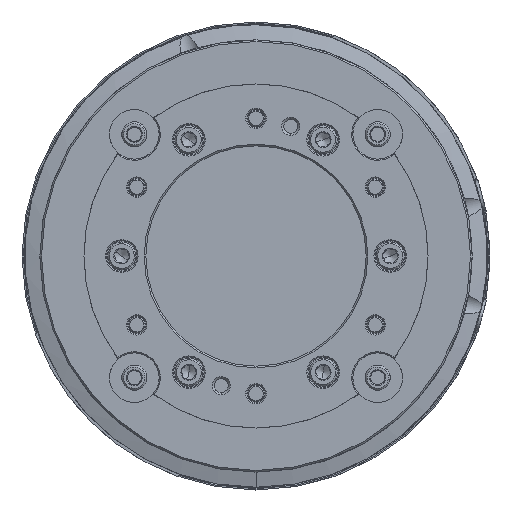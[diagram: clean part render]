
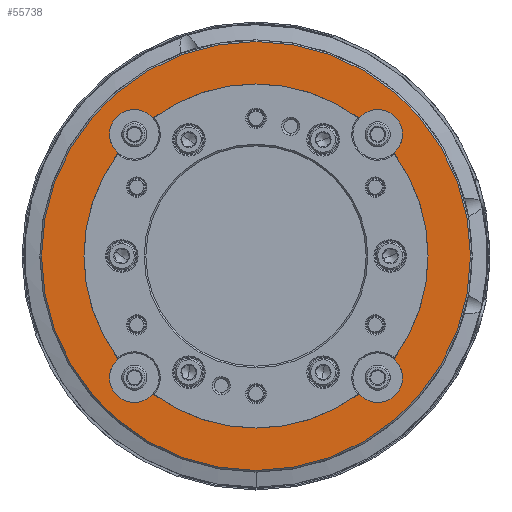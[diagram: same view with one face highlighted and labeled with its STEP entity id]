
A CAD part, left-side view. The second image highlights one B-rep face of the part: STEP entity #55738.
In plain terms, the highlighted planar face has unit normal (-1, 0, 0).
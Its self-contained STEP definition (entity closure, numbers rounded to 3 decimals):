
#629 = DIRECTION ( 'NONE',  ( 0., 0., -1. ) ) ;
#674 = CARTESIAN_POINT ( 'NONE',  ( -92.5, -44.194, 44.194 ) ) ;
#1220 = DIRECTION ( 'NONE',  ( 0., 0., 1. ) ) ;
#2568 = DIRECTION ( 'NONE',  ( -1., 0., 0. ) ) ;
#3240 = VERTEX_POINT ( 'NONE', #20165 ) ;
#3360 = CARTESIAN_POINT ( 'NONE',  ( -92.5, -50.083, 37.389 ) ) ;
#3631 = CIRCLE ( 'NONE', #61609, 9. ) ;
#5059 = AXIS2_PLACEMENT_3D ( 'NONE', #37426, #14603, #36892 ) ;
#6097 = EDGE_CURVE ( 'NONE', #12884, #88623, #3631, .T. ) ;
#7451 = CARTESIAN_POINT ( 'NONE',  ( -92.5, 44.194, 44.194 ) ) ;
#8649 = VERTEX_POINT ( 'NONE', #16038 ) ;
#9504 = DIRECTION ( 'NONE',  ( -1., 0., 0. ) ) ;
#9997 = VERTEX_POINT ( 'NONE', #25774 ) ;
#10679 = CARTESIAN_POINT ( 'NONE',  ( -92.5, 50.083, -37.389 ) ) ;
#12134 = ORIENTED_EDGE ( 'NONE', *, *, #100207, .T. ) ;
#12714 = ORIENTED_EDGE ( 'NONE', *, *, #47906, .T. ) ;
#12884 = VERTEX_POINT ( 'NONE', #3360 ) ;
#13218 = DIRECTION ( 'NONE',  ( 1., 0., 0. ) ) ;
#13646 = CIRCLE ( 'NONE', #70012, 9. ) ;
#14435 = CARTESIAN_POINT ( 'NONE',  ( -92.5, 0., 0. ) ) ;
#14603 = DIRECTION ( 'NONE',  ( -1., 0., 0. ) ) ;
#14976 = CIRCLE ( 'NONE', #5059, 9. ) ;
#15395 = FACE_OUTER_BOUND ( 'NONE', #34295, .T. ) ;
#15924 = FACE_BOUND ( 'NONE', #61190, .T. ) ;
#16038 = CARTESIAN_POINT ( 'NONE',  ( -92.5, 44.194, -53.194 ) ) ;
#16777 = DIRECTION ( 'NONE',  ( -1., 0., 0. ) ) ;
#16976 = AXIS2_PLACEMENT_3D ( 'NONE', #65760, #26332, #81903 ) ;
#18466 = AXIS2_PLACEMENT_3D ( 'NONE', #57041, #2568, #34181 ) ;
#19098 = CARTESIAN_POINT ( 'NONE',  ( -92.5, -37.389, 50.083 ) ) ;
#19411 = CARTESIAN_POINT ( 'NONE',  ( -92.5, 37.389, 50.083 ) ) ;
#20165 = CARTESIAN_POINT ( 'NONE',  ( -92.5, -44.194, -53.194 ) ) ;
#20219 = ORIENTED_EDGE ( 'NONE', *, *, #64230, .F. ) ;
#20890 = EDGE_CURVE ( 'NONE', #52536, #57688, #14976, .T. ) ;
#21106 = VERTEX_POINT ( 'NONE', #66232 ) ;
#22027 = ORIENTED_EDGE ( 'NONE', *, *, #84533, .F. ) ;
#22679 = CARTESIAN_POINT ( 'NONE',  ( -92.5, 0., 0. ) ) ;
#23495 = EDGE_CURVE ( 'NONE', #80001, #3240, #43487, .T. ) ;
#23706 = CIRCLE ( 'NONE', #36934, 62.5 ) ;
#24750 = EDGE_CURVE ( 'NONE', #42456, #9997, #42019, .T. ) ;
#25774 = CARTESIAN_POINT ( 'NONE',  ( -92.5, 50.083, 37.389 ) ) ;
#26332 = DIRECTION ( 'NONE',  ( -1., 0., 0. ) ) ;
#27831 = CIRCLE ( 'NONE', #75918, 9. ) ;
#30166 = VERTEX_POINT ( 'NONE', #97526 ) ;
#30218 = EDGE_CURVE ( 'NONE', #88623, #74511, #78155, .T. ) ;
#30871 = DIRECTION ( 'NONE',  ( 0., 0., -1. ) ) ;
#31619 = ORIENTED_EDGE ( 'NONE', *, *, #20890, .F. ) ;
#31822 = ORIENTED_EDGE ( 'NONE', *, *, #97272, .T. ) ;
#31976 = DIRECTION ( 'NONE',  ( 0., 0., 1. ) ) ;
#34181 = DIRECTION ( 'NONE',  ( 0., 0., 1. ) ) ;
#34295 = EDGE_LOOP ( 'NONE', ( #78470, #92337 ) ) ;
#36892 = DIRECTION ( 'NONE',  ( 0., 0., 1. ) ) ;
#36934 = AXIS2_PLACEMENT_3D ( 'NONE', #59919, #13218, #91611 ) ;
#37258 = DIRECTION ( 'NONE',  ( 0., 0., -1. ) ) ;
#37426 = CARTESIAN_POINT ( 'NONE',  ( -92.5, 44.194, 44.194 ) ) ;
#37689 = DIRECTION ( 'NONE',  ( -1., 0., 0. ) ) ;
#37999 = DIRECTION ( 'NONE',  ( 1., 0., 0. ) ) ;
#38048 = DIRECTION ( 'NONE',  ( -1., 0., 0. ) ) ;
#40248 = DIRECTION ( 'NONE',  ( 0., 0., -1. ) ) ;
#41114 = DIRECTION ( 'NONE',  ( 0., 0., 1. ) ) ;
#41632 = AXIS2_PLACEMENT_3D ( 'NONE', #71723, #37999, #629 ) ;
#42019 = CIRCLE ( 'NONE', #100022, 62.5 ) ;
#42089 = ORIENTED_EDGE ( 'NONE', *, *, #47785, .F. ) ;
#42456 = VERTEX_POINT ( 'NONE', #10679 ) ;
#43487 = CIRCLE ( 'NONE', #16976, 9. ) ;
#45341 = DIRECTION ( 'NONE',  ( 0., 0., 1. ) ) ;
#47480 = CARTESIAN_POINT ( 'NONE',  ( -92.5, -44.194, 53.194 ) ) ;
#47785 = EDGE_CURVE ( 'NONE', #8649, #92198, #59517, .T. ) ;
#47906 = EDGE_CURVE ( 'NONE', #80001, #30166, #56390, .T. ) ;
#47918 = AXIS2_PLACEMENT_3D ( 'NONE', #86144, #78322, #61730 ) ;
#47966 = DIRECTION ( 'NONE',  ( 1., 0., 0. ) ) ;
#48362 = CARTESIAN_POINT ( 'NONE',  ( -92.5, 44.194, 53.194 ) ) ;
#48595 = CIRCLE ( 'NONE', #70139, 77.9 ) ;
#48727 = VERTEX_POINT ( 'NONE', #102375 ) ;
#49925 = DIRECTION ( 'NONE',  ( 0., 0., 1. ) ) ;
#51769 = EDGE_CURVE ( 'NONE', #81522, #21106, #48595, .T. ) ;
#52536 = VERTEX_POINT ( 'NONE', #19411 ) ;
#54287 = DIRECTION ( 'NONE',  ( 1., 0., 0. ) ) ;
#55738 = ADVANCED_FACE ( 'NONE', ( #15924, #15395 ), #80811, .T. ) ;
#55859 = CARTESIAN_POINT ( 'NONE',  ( -92.5, 62.5, 0. ) ) ;
#56390 = CIRCLE ( 'NONE', #58041, 62.5 ) ;
#56473 = ORIENTED_EDGE ( 'NONE', *, *, #30218, .F. ) ;
#57041 = CARTESIAN_POINT ( 'NONE',  ( -92.5, -44.194, 44.194 ) ) ;
#57688 = VERTEX_POINT ( 'NONE', #48362 ) ;
#57917 = EDGE_CURVE ( 'NONE', #30166, #92198, #79904, .T. ) ;
#58041 = AXIS2_PLACEMENT_3D ( 'NONE', #22679, #54287, #40248 ) ;
#59517 = CIRCLE ( 'NONE', #71075, 9. ) ;
#59919 = CARTESIAN_POINT ( 'NONE',  ( -92.5, 0., 0. ) ) ;
#61190 = EDGE_LOOP ( 'NONE', ( #22027, #89010, #20219, #31619, #31822, #56473, #100384, #12134, #97474, #63676, #12714, #69704, #42089 ) ) ;
#61609 = AXIS2_PLACEMENT_3D ( 'NONE', #674, #88916, #49925 ) ;
#61730 = DIRECTION ( 'NONE',  ( 0., 0., -1. ) ) ;
#63676 = ORIENTED_EDGE ( 'NONE', *, *, #23495, .F. ) ;
#64230 = EDGE_CURVE ( 'NONE', #57688, #9997, #27831, .T. ) ;
#65760 = CARTESIAN_POINT ( 'NONE',  ( -92.5, -44.194, -44.194 ) ) ;
#66232 = CARTESIAN_POINT ( 'NONE',  ( -92.5, 0., 77.9 ) ) ;
#66476 = DIRECTION ( 'NONE',  ( 1., 0., 0. ) ) ;
#67501 = CARTESIAN_POINT ( 'NONE',  ( -92.5, 0., 0. ) ) ;
#69704 = ORIENTED_EDGE ( 'NONE', *, *, #57917, .T. ) ;
#69923 = DIRECTION ( 'NONE',  ( 1., 0., 0. ) ) ;
#70012 = AXIS2_PLACEMENT_3D ( 'NONE', #72322, #16777, #1220 ) ;
#70139 = AXIS2_PLACEMENT_3D ( 'NONE', #67501, #66476, #89871 ) ;
#70300 = CARTESIAN_POINT ( 'NONE',  ( -92.5, 0., 0. ) ) ;
#70410 = DIRECTION ( 'NONE',  ( -1., 0., 0. ) ) ;
#71075 = AXIS2_PLACEMENT_3D ( 'NONE', #92757, #37689, #83975 ) ;
#71723 = CARTESIAN_POINT ( 'NONE',  ( -92.5, 0., 0. ) ) ;
#72322 = CARTESIAN_POINT ( 'NONE',  ( -92.5, -44.194, -44.194 ) ) ;
#72827 = CARTESIAN_POINT ( 'NONE',  ( -92.5, 37.389, -50.083 ) ) ;
#74511 = VERTEX_POINT ( 'NONE', #19098 ) ;
#74784 = AXIS2_PLACEMENT_3D ( 'NONE', #84323, #38048, #45341 ) ;
#75918 = AXIS2_PLACEMENT_3D ( 'NONE', #7451, #9504, #41114 ) ;
#78155 = CIRCLE ( 'NONE', #18466, 9. ) ;
#78322 = DIRECTION ( 'NONE',  ( 1., 0., 0. ) ) ;
#78470 = ORIENTED_EDGE ( 'NONE', *, *, #51769, .F. ) ;
#79904 = CIRCLE ( 'NONE', #101423, 62.5 ) ;
#80001 = VERTEX_POINT ( 'NONE', #96937 ) ;
#80115 = CARTESIAN_POINT ( 'NONE',  ( -92.5, 0., -77.9 ) ) ;
#80811 = PLANE ( 'NONE',  #95927 ) ;
#81234 = CIRCLE ( 'NONE', #41632, 62.5 ) ;
#81522 = VERTEX_POINT ( 'NONE', #80115 ) ;
#81903 = DIRECTION ( 'NONE',  ( 0., 0., 1. ) ) ;
#83975 = DIRECTION ( 'NONE',  ( 0., 0., 1. ) ) ;
#84323 = CARTESIAN_POINT ( 'NONE',  ( -92.5, 44.194, -44.194 ) ) ;
#84533 = EDGE_CURVE ( 'NONE', #42456, #8649, #97976, .T. ) ;
#85941 = EDGE_CURVE ( 'NONE', #3240, #48727, #13646, .T. ) ;
#86029 = CIRCLE ( 'NONE', #47918, 77.9 ) ;
#86144 = CARTESIAN_POINT ( 'NONE',  ( -92.5, 0., 0. ) ) ;
#88623 = VERTEX_POINT ( 'NONE', #47480 ) ;
#88916 = DIRECTION ( 'NONE',  ( -1., 0., 0. ) ) ;
#89010 = ORIENTED_EDGE ( 'NONE', *, *, #24750, .T. ) ;
#89871 = DIRECTION ( 'NONE',  ( 0., 0., -1. ) ) ;
#91611 = DIRECTION ( 'NONE',  ( 0., 0., -1. ) ) ;
#92198 = VERTEX_POINT ( 'NONE', #72827 ) ;
#92337 = ORIENTED_EDGE ( 'NONE', *, *, #100966, .F. ) ;
#92757 = CARTESIAN_POINT ( 'NONE',  ( -92.5, 44.194, -44.194 ) ) ;
#95927 = AXIS2_PLACEMENT_3D ( 'NONE', #55859, #70410, #31976 ) ;
#96937 = CARTESIAN_POINT ( 'NONE',  ( -92.5, -37.389, -50.083 ) ) ;
#97272 = EDGE_CURVE ( 'NONE', #52536, #74511, #81234, .T. ) ;
#97474 = ORIENTED_EDGE ( 'NONE', *, *, #85941, .F. ) ;
#97526 = CARTESIAN_POINT ( 'NONE',  ( -92.5, 0., -62.5 ) ) ;
#97976 = CIRCLE ( 'NONE', #74784, 9. ) ;
#100022 = AXIS2_PLACEMENT_3D ( 'NONE', #70300, #47966, #30871 ) ;
#100207 = EDGE_CURVE ( 'NONE', #12884, #48727, #23706, .T. ) ;
#100384 = ORIENTED_EDGE ( 'NONE', *, *, #6097, .F. ) ;
#100966 = EDGE_CURVE ( 'NONE', #21106, #81522, #86029, .T. ) ;
#101423 = AXIS2_PLACEMENT_3D ( 'NONE', #14435, #69923, #37258 ) ;
#102375 = CARTESIAN_POINT ( 'NONE',  ( -92.5, -50.083, -37.389 ) ) ;
